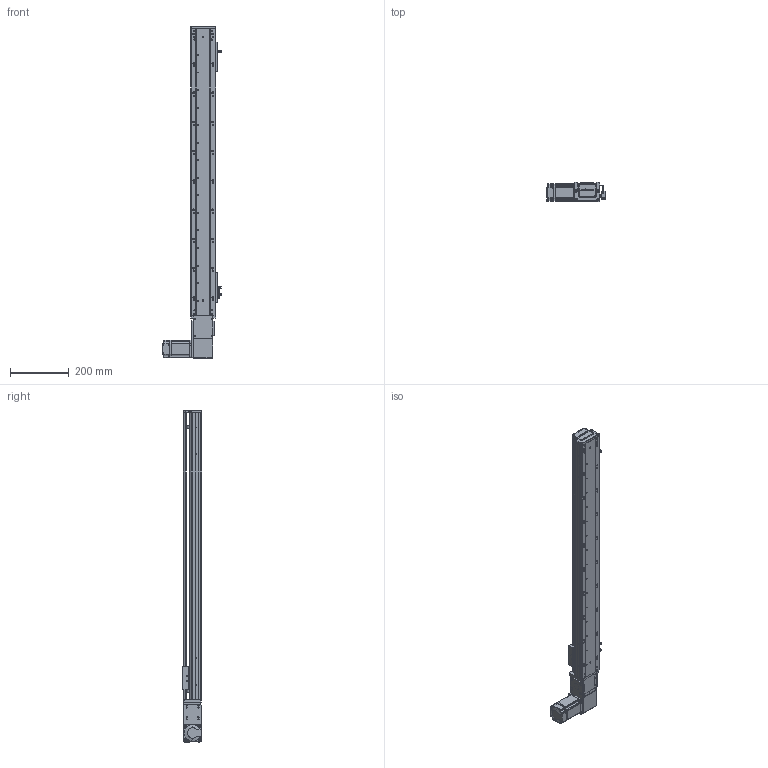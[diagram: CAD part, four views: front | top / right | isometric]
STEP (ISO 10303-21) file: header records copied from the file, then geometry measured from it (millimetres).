
FILE_DESCRIPTION (( 'STEP AP203' ), '1' );
FILE_NAME ('RY80-T-300-LK.SLDASM_800.step', '2021-03-01T01:58:38', ( '盈信电脑' ), ( '东莞市道滘镇水果街19号' ), 'SwSTEP 2.0', 'SolidWorks 2012', '' );
FILE_SCHEMA (( 'CONFIG_CONTROL_DESIGN' ));
Length unit declared in the file: millimetre
Products named in the file (19): RY80-T-300-LK.SLDASM_800; RY80-T-M4蹟翐; RY80-T萇儂假蚾啣; RY80-T肮祭謫俋欶; 1; RY80-T翋肮祭謫裔啣; 滅袉蝶18-10; 侂狟200W萇儂; RY80-T粣創揤踡輸; RY80-T-翋肮祭謫釱; RY80-T肮祭湍揤輸2; RY80-T肮祭湍揤輸1; 672嫖萇羲壽假蚾釱; RY80俋离覜茼え; 覜茼ん672; RY80-T綴裔啣; RY80-T肮祭謫臏賑輸; RY80-T-300-LK倰第奻裔啣_800; RY80-T-300-LK倰第菁釱_800
Assembly tree (24 placements, depth 3):
  RY80-T-300-LK.SLDASM_800
    RY80-T-300-LK倰第菁釱_800
    RY80-T肮祭謫臏賑輸
    RY80-T-300-LK倰第奻裔啣_800
    RY80-T綴裔啣
    672嫖萇羲壽假蚾釱  x2
    覜茼ん672  x3
    RY80俋离覜茼え
    RY80-T-翋肮祭謫釱
    RY80-T肮祭湍揤輸1
    RY80-T肮祭湍揤輸2
    RY80-T粣創揤踡輸
    RY80-T翋肮祭謫裔啣  x2
    滅袉蝶18-10  x2
    侂狟200W萇儂
      1
    RY80-T肮祭謫俋欶
    RY80-T萇儂假蚾啣
    RY80-T-M4蹟翐  x2
Bounding box: 198.7 x 65 x 1135 mm (x, y, z)
Volume: 1915177.7 mm3; surface area: 793862.6 mm2
Topology: 23 solids, 23 shells, 2561 faces, 7097 edges, 4613 vertices
Faces by surface type: plane 1343, cylinder 1011, cone 151, bspline 56
Entity records: 81703 total; most frequent: CARTESIAN_POINT 20607, ORIENTED_EDGE 12638, DIRECTION 11722, EDGE_CURVE 6319, VERTEX_POINT 4154, AXIS2_PLACEMENT_3D 3965, LINE 3792, VECTOR 3792
